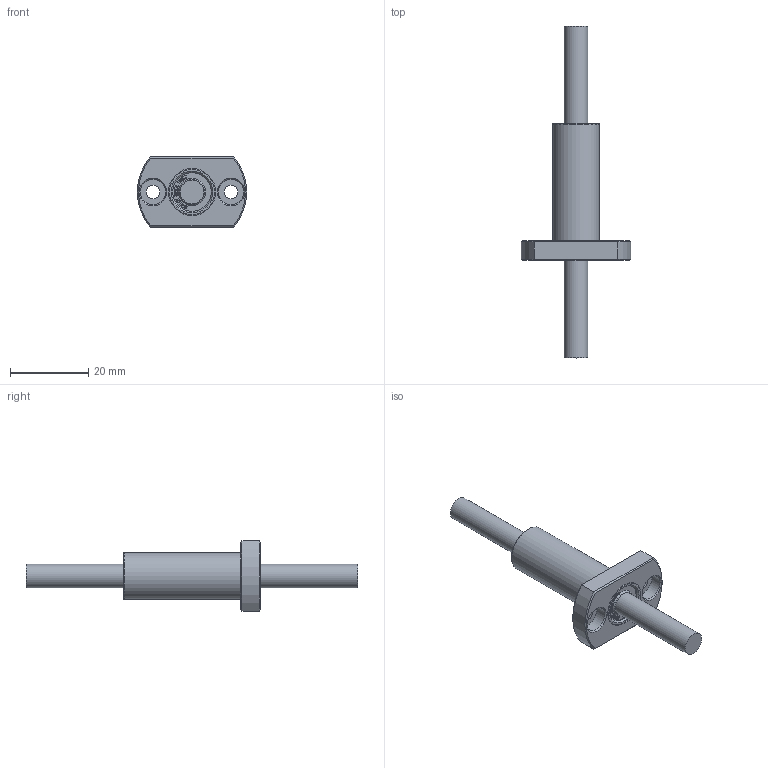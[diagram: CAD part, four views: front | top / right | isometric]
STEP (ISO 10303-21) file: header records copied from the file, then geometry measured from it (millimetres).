
FILE_DESCRIPTION(/* description */ (''),/* implementation_level */ '2;1');
FILE_NAME(/* name */ 'W:\(01) 2024년 홈페이지 CAD파일 최신화\LMH_L\IPT\LMH06LUU.stp',/* time_stamp */ '2025-01-23T10:14:30+09:00',/* author */ ('서우현'),/* organization */ (''),/* preprocessor_version */ 'ST-DEVELOPER v17.2',/* originating_system */ 'Autodesk Inventor 2019',/* authorisation */ '');
FILE_SCHEMA (('AUTOMOTIVE_DESIGN { 1 0 10303 214 3 1 1 }'));
Length unit declared in the file: millimetre
Products named in the file (1): LM5
Bounding box: 28 x 85 x 18 mm (x, y, z)
Volume: 6817.7 mm3; surface area: 3579 mm2
Topology: 1 solids, 1 shells, 816 faces, 2294 edges, 1532 vertices
Faces by surface type: bspline 568, plane 222, cone 12, cylinder 12, torus 2
Full cylindrical faces by diameter (mm): 3.4 x2, 6 x2, 6.5 x2, 9.85 x2, 12 x2
Entity records: 27776 total; most frequent: CARTESIAN_POINT 9771, ORIENTED_EDGE 4588, EDGE_CURVE 2294, DIRECTION 1714, VERTEX_POINT 1532, B_SPLINE_CURVE_WITH_KNOTS 1136, LINE 1084, VECTOR 1084
